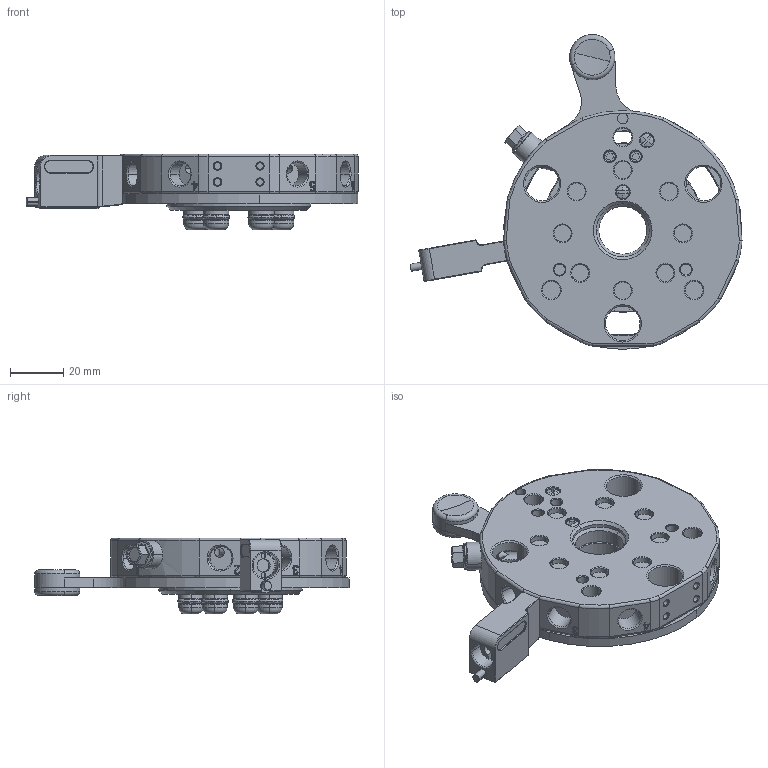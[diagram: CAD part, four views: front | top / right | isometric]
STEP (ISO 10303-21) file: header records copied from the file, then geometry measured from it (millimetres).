
FILE_DESCRIPTION (( 'STEP AP203' ), '1' );
FILE_NAME ('QC-R90K.STEP', '2024-03-20T01:47:06', ( '微软用户' ), ( '微软中国' ), 'SwSTEP 2.0', 'SolidWorks 2018', '' );
FILE_SCHEMA (( 'CONFIG_CONTROL_DESIGN' ));
Products named in the file (3): 4; QC-R90K.sldasm-Part-1; QC-R90K
Assembly tree (2 placements, depth 2):
  QC-R90K
    4
    QC-R90K.sldasm-Part-1
Bounding box: 124.79 x 118.32 x 28.52 mm (x, y, z)
Volume: 106078.7 mm3; surface area: 52809.8 mm2
Topology: 2 solids, 42 shells, 1456 faces, 3427 edges, 2133 vertices
Faces by surface type: cylinder 487, cone 385, plane 285, bspline 186, torus 76, sphere 37
Entity records: 58869 total; most frequent: CARTESIAN_POINT 25766, DIRECTION 6829, ORIENTED_EDGE 6828, EDGE_CURVE 3414, AXIS2_PLACEMENT_3D 2804, VERTEX_POINT 2127, EDGE_LOOP 1639, CIRCLE 1529
